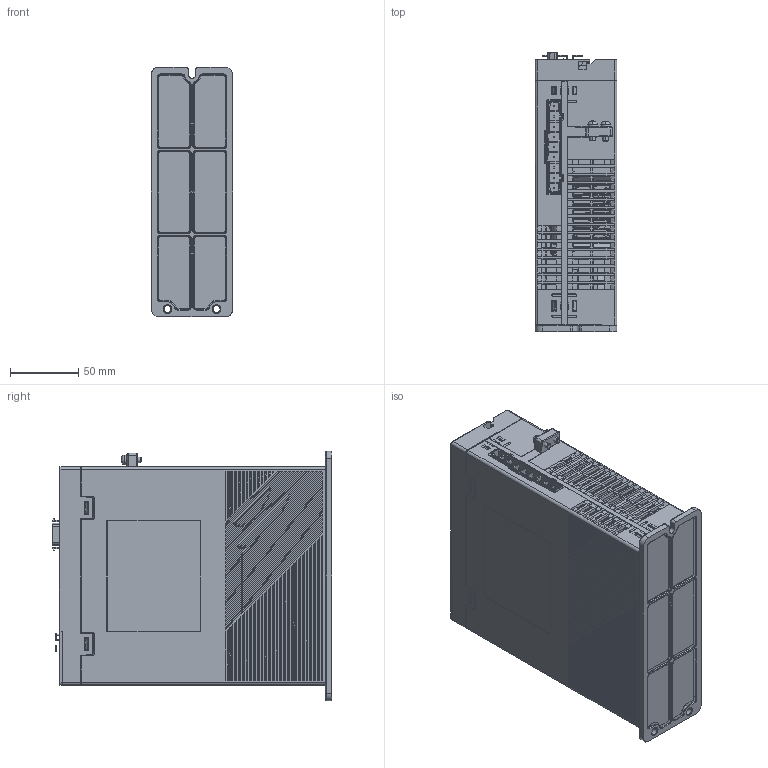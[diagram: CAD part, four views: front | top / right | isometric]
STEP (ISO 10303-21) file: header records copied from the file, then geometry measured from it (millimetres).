
FILE_DESCRIPTION((''),'2;1');
FILE_NAME('23CRN-03-00_SIDEC_SW0003','2025-09-30T14:40:11',('wuyh130'),(''),'CREO PARAMETRIC BY PTC INC, 2021063','CREO PARAMETRIC BY PTC INC, 2021063','');
FILE_SCHEMA(('AUTOMOTIVE_DESIGN { 1 0 10303 214 1 1 1 1 }'));
Products named in the file (1): 23CRN-03-00_SIDEC_SW0003
Bounding box: 60 x 205.24 x 183 mm (x, y, z)
Surface area: 332073.3 mm2 (no closed solid volume)
Topology: 0 solids, 351 shells, 2756 faces, 14927 edges, 12255 vertices
Faces by surface type: plane 1766, cylinder 668, bspline 164, cone 67, torus 40, extrusion 36, sphere 11, revolution 4
Entity records: 181195 total; most frequent: CARTESIAN_POINT 56050, DIRECTION 19660, ORIENTED_EDGE 19123, EDGE_CURVE 14915, VERTEX_POINT 12253, VECTOR 10791, LINE 10755, AXIS2_PLACEMENT_3D 4431
